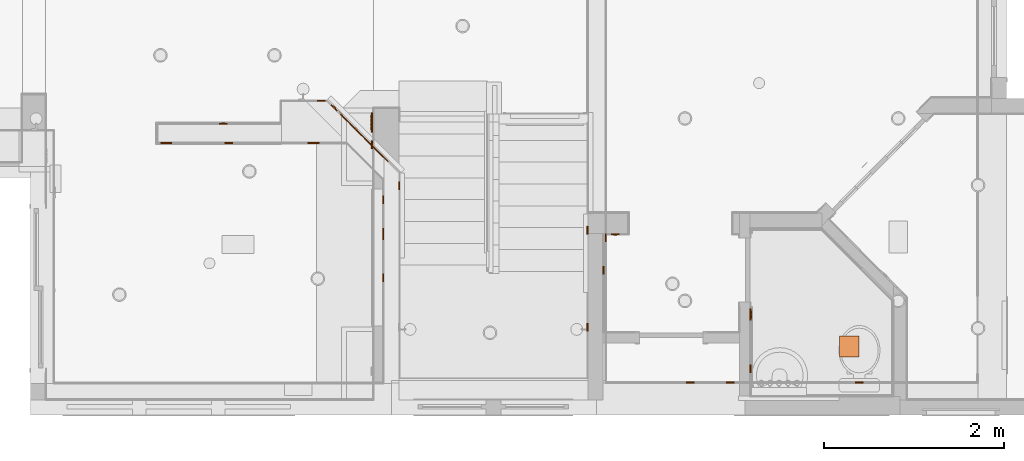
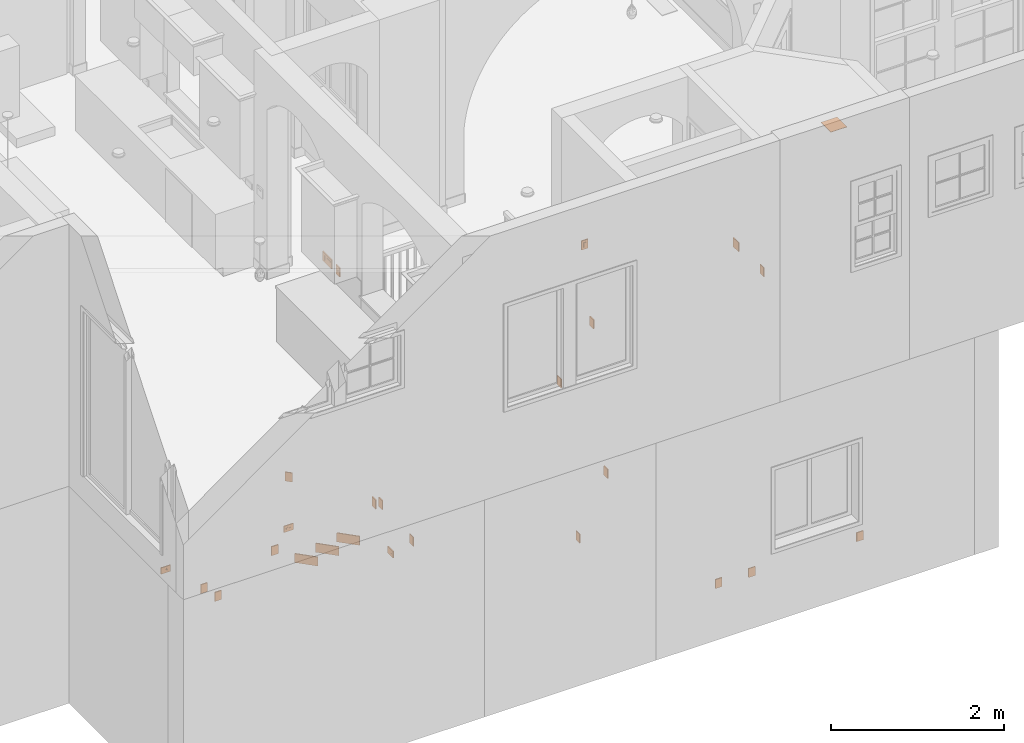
# One storey, part 64 of 81: 26 proxies.
"""IFC2X3 building model written with IfcOpenShell, lengths in feet."""

from ifc_helpers import new_model, entity, si_unit, converted_unit, derived_unit, direction, frame, frame_2d, origin, origin_2d_with_axis, place, context, subcontext, project, spatial, polyline, circle_curve, parameter, trimmed, segment, composite_curve, rectangle, outline, extrude, source, transform, mapped, material, type_object, type_shapes, element, save


model = new_model("IFC2X3")

# Units and contexts
model_context = context("Model", 3, precision=0.0001, world=origin(), true_north=direction((6.12303176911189e-17, 1.0)))
body_context = subcontext(model_context, "Body", "Model", "MODEL_VIEW")
ifc_project = project(units=[converted_unit("LENGTHUNIT", "FOOT", entity("IfcRatioMeasure", 0.3048), si_unit("LENGTHUNIT", "METRE"), dimensions=[1, 0, 0, 0, 0, 0, 0]), converted_unit("AREAUNIT", "SQUARE FOOT", entity("IfcRatioMeasure", 0.09290304), si_unit("AREAUNIT", "SQUARE_METRE"), dimensions=[2, 0, 0, 0, 0, 0, 0]), converted_unit("VOLUMEUNIT", "CUBIC FOOT", entity("IfcRatioMeasure", 0.028316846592), si_unit("VOLUMEUNIT", "CUBIC_METRE"), dimensions=[3, 0, 0, 0, 0, 0, 0]), converted_unit("PLANEANGLEUNIT", "DEGREE", entity("IfcRatioMeasure", 0.0174532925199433), si_unit("PLANEANGLEUNIT", "RADIAN"), dimensions=[0, 0, 0, 0, 0, 0, 0]), si_unit("MASSUNIT", "GRAM", prefix="KILO"), derived_unit("MASSDENSITYUNIT", [(si_unit("MASSUNIT", "GRAM", prefix="KILO"), 1), (si_unit("LENGTHUNIT", "METRE"), -3)]), derived_unit("MOMENTOFINERTIAUNIT", [(si_unit("LENGTHUNIT", "METRE"), 4)]), si_unit("TIMEUNIT", "SECOND"), si_unit("FREQUENCYUNIT", "HERTZ"), si_unit("THERMODYNAMICTEMPERATUREUNIT", "DEGREE_CELSIUS"), derived_unit("THERMALTRANSMITTANCEUNIT", [(si_unit("MASSUNIT", "GRAM", prefix="KILO"), 1), (si_unit("THERMODYNAMICTEMPERATUREUNIT", "KELVIN"), -1), (si_unit("TIMEUNIT", "SECOND"), -3)]), derived_unit("VOLUMETRICFLOWRATEUNIT", [(si_unit("LENGTHUNIT", "METRE"), 3), (si_unit("TIMEUNIT", "SECOND"), -1)]), si_unit("ELECTRICCURRENTUNIT", "AMPERE"), si_unit("ELECTRICVOLTAGEUNIT", "VOLT"), si_unit("POWERUNIT", "WATT"), si_unit("FORCEUNIT", "NEWTON"), si_unit("ILLUMINANCEUNIT", "LUX"), si_unit("LUMINOUSFLUXUNIT", "LUMEN"), si_unit("LUMINOUSINTENSITYUNIT", "CANDELA"), derived_unit("USERDEFINED", [(si_unit("MASSUNIT", "GRAM", prefix="KILO"), -1), (si_unit("LENGTHUNIT", "METRE"), -2), (si_unit("TIMEUNIT", "SECOND"), 3), (si_unit("LUMINOUSFLUXUNIT", "LUMEN"), 1)]), derived_unit("LINEARVELOCITYUNIT", [(si_unit("LENGTHUNIT", "METRE"), 1), (si_unit("TIMEUNIT", "SECOND"), -1)]), si_unit("PRESSUREUNIT", "PASCAL"), derived_unit("USERDEFINED", [(si_unit("LENGTHUNIT", "METRE"), -2), (si_unit("MASSUNIT", "GRAM", prefix="KILO"), 1), (si_unit("TIMEUNIT", "SECOND"), -2)]), derived_unit("LINEARFORCEUNIT", [(si_unit("MASSUNIT", "GRAM", prefix="KILO"), 1), (si_unit("LENGTHUNIT", "METRE"), 1), (si_unit("TIMEUNIT", "SECOND"), -2), (si_unit("LENGTHUNIT", "METRE"), -1)]), derived_unit("PLANARFORCEUNIT", [(si_unit("MASSUNIT", "GRAM", prefix="KILO"), 1), (si_unit("LENGTHUNIT", "METRE"), 1), (si_unit("TIMEUNIT", "SECOND"), -2), (si_unit("LENGTHUNIT", "METRE"), -2)])], contexts=[model_context])

# Site, building, storey
site_placement = place(None, origin())
site = spatial("IfcSite", under=ifc_project, at=site_placement, Name="Default", CompositionType="ELEMENT")
building_placement = place(site_placement, origin())
building = spatial("IfcBuilding", under=site, at=building_placement, CompositionType="ELEMENT")
storey_placement = place(building_placement, origin())
storey = spatial("IfcBuildingStorey", under=building, at=storey_placement, Name="First floor", CompositionType="ELEMENT", Elevation=0.0)

# Proxies
ifc_material = material(Name="Default New Material")
building_element_proxy_type_1 = type_object("IfcBuildingElementProxyType", Name="Switch 4:Switch 4", PredefinedType="NOTDEFINED", material=ifc_material)
shared_shape_1 = source(origin(), body_context, "Body", "SweptSolid", [
    extrude(outline(composite_curve([segment(polyline([(-0.0309162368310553, -0.0465871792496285), (0.0309162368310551, -0.0465871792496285)]), True, "CONTINUOUS"), segment(trimmed(circle_curve(frame_2d((-0.000264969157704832, 0.0), x_axis=(-1.0, 0.0)), 0.056059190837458), [parameter(123.794740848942)], [parameter(236.205259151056)], True, "PARAMETER"), True, "CONTINUOUS"), segment(polyline([(0.0309162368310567, 0.0465871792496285), (-0.0309162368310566, 0.0465871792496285)]), True, "CONTINUOUS"), segment(trimmed(circle_curve(frame_2d((0.000264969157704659, 0.0), x_axis=(1.0, 0.0)), 0.056059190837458), [parameter(123.794740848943)], [parameter(236.205259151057)], True, "PARAMETER"), True, "CONTINUOUS")], self_intersect=False), holes=[polyline([(0.0141623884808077, 0.0279286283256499), (0.0261732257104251, 0.0279286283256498), (0.026173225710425, -0.00693584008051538), (0.0141623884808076, -0.00693584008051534), (0.0141623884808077, 0.0279286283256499)]), polyline([(-0.0152702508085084, 0.0250466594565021), (-0.0152702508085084, -0.00448340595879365), (-0.0278178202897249, -0.00448340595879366), (-0.0278178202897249, 0.0250466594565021), (-0.0152702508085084, 0.0250466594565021)]), composite_curve([segment(polyline([(-0.0120315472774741, -0.041319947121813), (-0.0120315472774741, -0.0300186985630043)]), True, "CONTINUOUS"), segment(trimmed(circle_curve(frame_2d((-0.000284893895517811, -0.0300186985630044), x_axis=(-1.0, 0.0)), 0.0117466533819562), [parameter(180.0)], [parameter(0.0)], True, "PARAMETER"), False, "CONTINUOUS"), segment(polyline([(0.0114617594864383, -0.0300186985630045), (0.0114617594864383, -0.0413199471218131)]), True, "CONTINUOUS"), segment(polyline([(0.0114617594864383, -0.0413199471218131), (-0.0120315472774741, -0.041319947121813)]), True, "CONTINUOUS")], self_intersect=False)]), frame((-0.0114927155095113, 0.0416666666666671, 0.27060332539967), z_axis=(0.0, 1.0, 0.0), x_axis=(-1.0, 0.0, 0.0)), (0.0, 0.0, 1.0), 0.00420900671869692),
    extrude(outline(composite_curve([segment(polyline([(-0.0307631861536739, -0.0463565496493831), (0.0307631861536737, -0.0463565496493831)]), True, "CONTINUOUS"), segment(trimmed(circle_curve(frame_2d((-0.000263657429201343, 0.0), x_axis=(-1.0, 0.0)), 0.0557816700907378), [parameter(123.794740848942)], [parameter(236.205259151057)], True, "PARAMETER"), True, "CONTINUOUS"), segment(polyline([(0.030763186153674, 0.0463565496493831), (-0.0307631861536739, 0.0463565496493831)]), True, "CONTINUOUS"), segment(trimmed(circle_curve(frame_2d((0.00026365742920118, 0.0), x_axis=(1.0, 0.0)), 0.0557816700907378), [parameter(123.794740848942)], [parameter(236.205259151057)], True, "PARAMETER"), True, "CONTINUOUS")], self_intersect=False), holes=[polyline([(0.0140922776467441, 0.0247228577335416), (0.026043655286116, 0.0247228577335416), (0.0260436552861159, -0.00472751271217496), (0.014092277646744, -0.00472751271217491), (0.0140922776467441, 0.0247228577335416)]), polyline([(-0.0151946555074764, 0.0249226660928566), (-0.0151946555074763, -0.0044612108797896), (-0.0276801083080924, -0.00446121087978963), (-0.0276801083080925, 0.0249226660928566), (-0.0151946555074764, 0.0249226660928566)]), composite_curve([segment(polyline([(-0.0119719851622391, -0.0411153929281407), (-0.011971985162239, -0.0298700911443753)]), True, "CONTINUOUS"), segment(trimmed(circle_curve(frame_2d((-0.000283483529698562, -0.0298700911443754), x_axis=(-1.0, 0.0)), 0.0116885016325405), [parameter(180.0)], [parameter(0.0)], True, "PARAMETER"), False, "CONTINUOUS"), segment(polyline([(0.0114050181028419, -0.0298700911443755), (0.0114050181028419, -0.0411153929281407)]), True, "CONTINUOUS"), segment(polyline([(0.0114050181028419, -0.0411153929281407), (-0.0119719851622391, -0.0411153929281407)]), True, "CONTINUOUS")], self_intersect=False)]), frame((-0.0114927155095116, 0.0416666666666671, 0.145832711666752), z_axis=(0.0, 1.0, 0.0), x_axis=(-1.0, 0.0, 0.0)), (0.0, 0.0, 1.0), 0.00420900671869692),
    extrude(rectangle(XDim=0.0416666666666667, YDim=0.291666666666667, at=frame_2d((0.0, 1.38777878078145e-17), x_axis=(1.0, 0.0))), frame((-0.0114927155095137, 0.0208333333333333, 0.0), z_axis=(0.0, 0.0, 1.0), x_axis=(0.0, -1.0, 0.0)), (0.0, 0.0, 1.0), 0.416666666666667),
])
type_shapes(building_element_proxy_type_1, [shared_shape_1])
proxy_1_placement = place(storey_placement, frame((24.1156593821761, 1.16666666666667, 0.958335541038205)))
element("IfcBuildingElementProxy", 1, at=proxy_1_placement, inside=storey, type_object=building_element_proxy_type_1, material=ifc_material, Name="Switch 4:Switch 4", ObjectType="Switch 4:Switch 4", context=body_context, shape_type="MappedRepresentation", body=[
    mapped(shared_shape_1, transform((0.0, 0.0, 0.0), scale=1.0)),
])
proxy_2_placement = place(storey_placement, frame((21.0, 6.46767395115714, 0.958335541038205), z_axis=(0.0, 0.0, 1.0), x_axis=(0.0, -1.0, 0.0)))
element("IfcBuildingElementProxy", 2, at=proxy_2_placement, inside=storey, type_object=building_element_proxy_type_1, material=ifc_material, Name="Switch 4:Switch 4", ObjectType="Switch 4:Switch 4", context=body_context, shape_type="MappedRepresentation", body=[
    mapped(shared_shape_1, transform((0.0, 0.0, 0.0), scale=1.0)),
])
for number, where, name in (
    (3, (7.05790459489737, 10.6250577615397, 0.958335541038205), "Switch 4:Switch 4"),
    (4, (10.6365124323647, 11.4583210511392, 0.958333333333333), "Switch 4:Switch 4"),
):
    element("IfcBuildingElementProxy", number, at=place(storey_placement, frame(where)), inside=storey, type_object=building_element_proxy_type_1, material=ifc_material, Name=name, ObjectType="Switch 4:Switch 4", context=body_context, shape_type="MappedRepresentation", body=[
        mapped(shared_shape_1, transform((0.0, 0.0, 0.0), scale=1.0)),
    ])
for number, where, z_axis, x_axis, name in (
    (5, (20.9166666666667, 5.28017395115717, 11.625), (0.0, 0.0, 1.0), (0.0, -1.0, 0.0), "Switch 4:Switch 4"),
    (6, (26.2916666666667, 1.67600728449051, 14.3333355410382), (0.0, 0.0, 1.0), (0.0, -1.0, 0.0), "Switch 4:Switch 4"),
):
    element("IfcBuildingElementProxy", number, at=place(storey_placement, frame(where, z_axis=z_axis, x_axis=x_axis)), inside=storey, type_object=building_element_proxy_type_1, material=ifc_material, Name=name, ObjectType="Switch 4:Switch 4", context=body_context, shape_type="MappedRepresentation", body=[
        mapped(shared_shape_1, transform((0.0, 0.0, 0.0), scale=1.0)),
    ])
building_element_proxy_type_2 = type_object("IfcBuildingElementProxyType", Name="Switch 1:Switch 1", PredefinedType="NOTDEFINED", material=ifc_material)
shared_shape_2 = source(origin(), body_context, "Body", "SweptSolid", [
    extrude(rectangle(XDim=0.0416666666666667, YDim=0.291666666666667, at=frame_2d((1.73472347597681e-18, -1.38777878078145e-17), x_axis=(1.0, 0.0))), frame((0.0149704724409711, 0.0208333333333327, 0.0), z_axis=(0.0, 0.0, 1.0), x_axis=(0.0, 1.0, 0.0)), (0.0, 0.0, 1.0), 0.416666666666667),
])
type_shapes(building_element_proxy_type_2, [shared_shape_2])
for number, where, name in (
    (7, (30.2766961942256, 1.16666666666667, 0.958333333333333), "Switch 1:Switch 1"),
    (8, (25.547529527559, 1.16666666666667, 0.958333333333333), "Switch 1:Switch 1"),
):
    element("IfcBuildingElementProxy", number, at=place(storey_placement, frame(where)), inside=storey, type_object=building_element_proxy_type_2, material=ifc_material, Name=name, ObjectType="Switch 1:Switch 1", context=body_context, shape_type="MappedRepresentation", body=[
        mapped(shared_shape_2, transform((0.0, 0.0, 0.0), scale=1.0)),
    ])
for number, where, z_axis, x_axis, name in (
    (9, (7.26977145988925, 9.95839109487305, 0.958333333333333), (0.0, 0.0, 1.0), (-1.0, 0.0, 0.0), "Switch 1:Switch 1"),
    (10, (12.9166655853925, 7.84399826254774, 4.54166666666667), (0.0, 0.0, 1.0), (0.0, 1.0, 0.0), "Switch 1:Switch 1"),
    (11, (12.9166655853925, 5.00586286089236, 4.54166666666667), (0.0, 0.0, 1.0), (0.0, 1.0, 0.0), "Switch 1:Switch 1"),
    (12, (13.4583322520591, 8.3899715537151, 4.0), (0.0, 0.0, 1.0), (0.0, -1.0, 0.0), "Switch 1:Switch 1"),
    (13, (20.375, 3.19336286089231, 6.16666666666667), (0.0, 0.0, 1.0), (0.0, 1.0, 0.0), "Switch 1:Switch 1"),
    (14, (20.375, 6.73502952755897, 8.20833333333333), (0.0, 0.0, 1.0), (0.0, 1.0, 0.0), "Switch 1:Switch 1"),
):
    element("IfcBuildingElementProxy", number, at=place(storey_placement, frame(where, z_axis=z_axis, x_axis=x_axis)), inside=storey, type_object=building_element_proxy_type_2, material=ifc_material, Name=name, ObjectType="Switch 1:Switch 1", context=body_context, shape_type="MappedRepresentation", body=[
        mapped(shared_shape_2, transform((0.0, 0.0, 0.0), scale=1.0)),
    ])
building_element_proxy_type_3 = type_object("IfcBuildingElementProxyType", Name="Switch 22:Switch 22", PredefinedType="NOTDEFINED", material=ifc_material)
shared_shape_3 = source(origin(), body_context, "Body", "SweptSolid", [
    extrude(outline(polyline([(-0.0259922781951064, -0.0993451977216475), (-0.00568037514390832, -0.0993451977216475), (-0.00432436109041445, -0.021559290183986), (0.021153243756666, 0.109511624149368), (0.0148437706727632, 0.110738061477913), (-0.0259922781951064, -0.0993451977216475)])), frame((0.216904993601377, 0.0482254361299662, 0.203805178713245), z_axis=(1.0, 0.0, 0.0), x_axis=(0.0, 0.981627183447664, 0.190808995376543)), (0.0, 0.0, 1.0), 0.104166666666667),
    extrude(outline(polyline([(-0.0259922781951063, -0.0993451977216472), (-0.00568037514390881, -0.0993451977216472), (-0.00432436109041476, -0.0215592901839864), (0.0211532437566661, 0.109511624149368), (0.0148437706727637, 0.110738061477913), (-0.0259922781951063, -0.0993451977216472)])), frame((0.0752383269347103, 0.0482254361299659, 0.203805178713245), z_axis=(1.0, 0.0, 0.0), x_axis=(0.0, 0.981627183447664, 0.190808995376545)), (0.0, 0.0, 1.0), 0.104166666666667),
    extrude(outline(polyline([(-0.102069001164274, -0.00649102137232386), (0.111946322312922, -0.00649102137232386), (0.111946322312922, -6.34558053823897e-05), (-0.0235644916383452, -6.34558053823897e-05), (-0.0982591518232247, 0.0131089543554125), (-0.102069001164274, -0.00649102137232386)])), frame((-0.0664283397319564, 0.0481576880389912, 0.2120154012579), z_axis=(1.0, 0.0, 0.0), x_axis=(0.0, 0.0, -1.0)), (0.0, 0.0, 1.0), 0.104166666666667),
    extrude(outline(polyline([(-0.102069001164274, -0.00649102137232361), (0.111946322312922, -0.00649102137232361), (0.111946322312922, -6.34558053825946e-05), (-0.0235644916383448, -6.34558053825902e-05), (-0.0982591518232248, 0.0131089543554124), (-0.102069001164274, -0.00649102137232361)])), frame((-0.208095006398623, 0.048157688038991, 0.2120154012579), z_axis=(1.0, 0.0, 0.0), x_axis=(0.0, 0.0, -1.0)), (0.0, 0.0, 1.0), 0.104166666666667),
    extrude(rectangle(XDim=0.0416666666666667, YDim=0.708333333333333, at=origin_2d_with_axis()), frame((0.0564883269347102, 0.0208333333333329, 0.0), z_axis=(0.0, 0.0, 1.0), x_axis=(0.0, -1.0, 0.0)), (0.0, 0.0, 1.0), 0.416666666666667),
])
type_shapes(building_element_proxy_type_3, [shared_shape_3])
proxy_3_placement = place(storey_placement, frame((12.4999999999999, 10.6306665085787, 14.2083333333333), z_axis=(0.0, 0.0, 1.0), x_axis=(0.0, 1.0, 0.0)))
element("IfcBuildingElementProxy", 15, at=proxy_3_placement, inside=storey, type_object=building_element_proxy_type_3, material=ifc_material, Name="Switch 22:Switch 22", ObjectType="Switch 22:Switch 22", context=body_context, shape_type="MappedRepresentation", body=[
    mapped(shared_shape_3, transform((0.0, 0.0, 0.0), scale=1.0)),
])
building_element_proxy_type_4 = type_object("IfcBuildingElementProxyType", Name="Switch 15:Switch 15", PredefinedType="NOTDEFINED", material=ifc_material)
shared_shape_4 = source(origin(), body_context, "Body", "SweptSolid", [
    extrude(outline(composite_curve([segment(polyline([(-0.0309162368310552, -0.0465871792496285), (0.030916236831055, -0.0465871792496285)]), True, "CONTINUOUS"), segment(trimmed(circle_curve(frame_2d((-0.000264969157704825, 0.0), x_axis=(-1.0, 0.0)), 0.056059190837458), [parameter(123.794740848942)], [parameter(236.205259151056)], True, "PARAMETER"), True, "CONTINUOUS"), segment(polyline([(0.0309162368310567, 0.0465871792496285), (-0.0309162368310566, 0.0465871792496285)]), True, "CONTINUOUS"), segment(trimmed(circle_curve(frame_2d((0.000264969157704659, 0.0), x_axis=(1.0, 0.0)), 0.056059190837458), [parameter(123.794740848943)], [parameter(236.205259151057)], True, "PARAMETER"), True, "CONTINUOUS")], self_intersect=False), holes=[polyline([(0.0141623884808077, 0.0279286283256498), (0.026173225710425, 0.0279286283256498), (0.0261732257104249, -0.00693584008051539), (0.0141623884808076, -0.00693584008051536), (0.0141623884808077, 0.0279286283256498)]), polyline([(-0.0152702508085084, 0.0250466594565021), (-0.0152702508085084, -0.00448340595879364), (-0.0278178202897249, -0.00448340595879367), (-0.027817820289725, 0.025046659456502), (-0.0152702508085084, 0.0250466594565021)]), composite_curve([segment(polyline([(-0.0120315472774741, -0.041319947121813), (-0.0120315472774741, -0.0300186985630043)]), True, "CONTINUOUS"), segment(trimmed(circle_curve(frame_2d((-0.000284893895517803, -0.0300186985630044), x_axis=(-1.0, 0.0)), 0.0117466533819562), [parameter(180.0)], [parameter(0.0)], True, "PARAMETER"), False, "CONTINUOUS"), segment(polyline([(0.0114617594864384, -0.0300186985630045), (0.0114617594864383, -0.0413199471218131)]), True, "CONTINUOUS"), segment(polyline([(0.0114617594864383, -0.0413199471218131), (-0.0120315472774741, -0.041319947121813)]), True, "CONTINUOUS")], self_intersect=False)]), frame((-0.0667122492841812, 0.0416666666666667, 0.14583333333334), z_axis=(0.0, 1.0, 0.0), x_axis=(0.0, 0.0, -1.0)), (0.0, 0.0, 1.0), 0.00420900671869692),
    extrude(outline(composite_curve([segment(polyline([(-0.0307631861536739, -0.0463565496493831), (0.0307631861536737, -0.0463565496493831)]), True, "CONTINUOUS"), segment(trimmed(circle_curve(frame_2d((-0.000263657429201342, 0.0), x_axis=(-1.0, 0.0)), 0.0557816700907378), [parameter(123.794740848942)], [parameter(236.205259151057)], True, "PARAMETER"), True, "CONTINUOUS"), segment(polyline([(0.030763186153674, 0.0463565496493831), (-0.0307631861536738, 0.0463565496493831)]), True, "CONTINUOUS"), segment(trimmed(circle_curve(frame_2d((0.000263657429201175, 0.0), x_axis=(1.0, 0.0)), 0.0557816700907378), [parameter(123.794740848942)], [parameter(236.205259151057)], True, "PARAMETER"), True, "CONTINUOUS")], self_intersect=False), holes=[polyline([(0.0140922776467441, 0.0247228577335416), (0.026043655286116, 0.0247228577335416), (0.0260436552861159, -0.00472751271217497), (0.014092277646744, -0.00472751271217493), (0.0140922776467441, 0.0247228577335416)]), polyline([(-0.0151946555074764, 0.0249226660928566), (-0.0151946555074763, -0.00446121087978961), (-0.0276801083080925, -0.00446121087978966), (-0.0276801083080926, 0.0249226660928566), (-0.0151946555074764, 0.0249226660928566)]), composite_curve([segment(polyline([(-0.0119719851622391, -0.0411153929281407), (-0.0119719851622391, -0.0298700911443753)]), True, "CONTINUOUS"), segment(trimmed(circle_curve(frame_2d((-0.000283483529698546, -0.0298700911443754), x_axis=(-1.0, 0.0)), 0.0116885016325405), [parameter(180.0)], [parameter(1.01777749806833e-13)], True, "PARAMETER"), False, "CONTINUOUS"), segment(polyline([(0.011405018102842, -0.0298700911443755), (0.0114050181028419, -0.0411153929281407)]), True, "CONTINUOUS"), segment(polyline([(0.0114050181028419, -0.0411153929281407), (-0.0119719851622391, -0.0411153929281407)]), True, "CONTINUOUS")], self_intersect=False)]), frame((0.058058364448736, 0.0416666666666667, 0.145833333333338), z_axis=(0.0, 1.0, 0.0), x_axis=(0.0, 0.0, -1.0)), (0.0, 0.0, 1.0), 0.00420900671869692),
    extrude(rectangle(XDim=0.0416666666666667, YDim=0.416666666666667, at=origin_2d_with_axis()), frame((-0.00444225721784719, 0.0208333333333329, 0.0), z_axis=(0.0, 0.0, 1.0), x_axis=(0.0, -1.0, 0.0)), (0.0, 0.0, 1.0), 0.291666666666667),
])
type_shapes(building_element_proxy_type_4, [shared_shape_4])
for number, where, z_axis, x_axis, name in (
    (16, (4.95869206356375, 9.95833333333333, 3.04166666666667), (0.0, 0.0, 1.0), (-1.0, 0.0, 0.0), "Switch 15:Switch 15"),
    (17, (10.33361156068, 9.95831872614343, 3.08333333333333), (0.0, 0.0, 1.0), (-1.0, 0.0, 0.0), "Switch 15:Switch 15"),
    (18, (12.9166655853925, 6.61341099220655, 3.08333333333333), (0.0, 0.0, 1.0), (0.0, 1.0, 0.0), "Switch 15:Switch 15"),
):
    element("IfcBuildingElementProxy", number, at=place(storey_placement, frame(where, z_axis=z_axis, x_axis=x_axis)), inside=storey, type_object=building_element_proxy_type_4, material=ifc_material, Name=name, ObjectType="Switch 15:Switch 15", context=body_context, shape_type="MappedRepresentation", body=[
        mapped(shared_shape_4, transform((0.0, 0.0, 0.0), scale=1.0)),
    ])
building_element_proxy_type_5 = type_object("IfcBuildingElementProxyType", Name="Switch 6:Switch 6", PredefinedType="NOTDEFINED", material=ifc_material)
shared_shape_5 = source(origin(), body_context, "Body", "SweptSolid", [
    extrude(outline(polyline([(-0.0254447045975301, -0.101047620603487), (-0.00704945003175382, -0.101047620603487), (-0.00576030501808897, -0.0270975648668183), (0.021685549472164, 0.114099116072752), (0.0165689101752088, 0.11509369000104), (-0.0254447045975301, -0.101047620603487)])), frame((0.0159752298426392, 0.0473630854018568, 0.202286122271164), z_axis=(1.0, 0.0, 0.0), x_axis=(0.0, 0.981627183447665, 0.190808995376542)), (0.0, 0.0, 1.0), 0.104166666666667),
    extrude(outline(polyline([(-0.105609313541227, -0.00595439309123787), (0.114577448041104, -0.00595439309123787), (0.114577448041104, -0.000741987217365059), (-0.0216969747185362, -0.00074198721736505), (-0.101848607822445, 0.0133927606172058), (-0.105609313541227, -0.00595439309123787)])), frame((-0.129858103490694, 0.047621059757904, 0.211324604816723), z_axis=(1.0, 0.0, 0.0), x_axis=(0.0, 0.0, -1.0)), (0.0, 0.0, 1.0), 0.104166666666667),
    extrude(rectangle(XDim=0.0416666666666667, YDim=0.416666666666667, at=frame_2d((0.0, -1.38777878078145e-17), x_axis=(1.0, 0.0))), frame((-0.00485810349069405, 0.0208333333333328, 0.0), z_axis=(0.0, 0.0, 1.0), x_axis=(0.0, -1.0, 0.0)), (0.0, 0.0, 1.0), 0.416666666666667),
])
type_shapes(building_element_proxy_type_5, [shared_shape_5])
proxy_4_placement = place(storey_placement, frame((26.2916666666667, 3.661808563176, 14.3333355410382), z_axis=(0.0, 0.0, 1.0), x_axis=(0.0, -1.0, 0.0)))
element("IfcBuildingElementProxy", 19, at=proxy_4_placement, inside=storey, type_object=building_element_proxy_type_5, material=ifc_material, Name="Switch 6:Switch 6", ObjectType="Switch 6:Switch 6", context=body_context, shape_type="MappedRepresentation", body=[
    mapped(shared_shape_5, transform((0.0, 0.0, 0.0), scale=1.0)),
])
building_element_proxy_type_6 = type_object("IfcBuildingElementProxyType", Name="Switch 3:Switch 3", PredefinedType="NOTDEFINED", material=ifc_material)
shared_shape_6 = source(origin(), body_context, "Body", "SweptSolid", [
    extrude(outline(polyline([(-0.104054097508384, -0.005864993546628), (0.112106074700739, -0.005864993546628), (0.112106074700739, -0.000652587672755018), (-0.0212705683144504, -0.000652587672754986), (-0.0988874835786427, 0.0130351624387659), (-0.104054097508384, -0.005864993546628)])), frame((-0.0648037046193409, 0.0475316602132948, 0.212359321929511), z_axis=(1.0, 0.0, 0.0), x_axis=(0.0, 0.0, -1.0)), (0.0, 0.0, 1.0), 0.104166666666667),
    extrude(rectangle(XDim=0.0416666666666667, YDim=0.291666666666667, at=frame_2d((0.0, -1.38777878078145e-17), x_axis=(1.0, 0.0))), frame((-0.012720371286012, 0.020833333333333, 0.0), z_axis=(0.0, 0.0, 1.0), x_axis=(0.0, -1.0, 0.0)), (0.0, 0.0, 1.0), 0.416666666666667),
])
type_shapes(building_element_proxy_type_6, [shared_shape_6])
for number, where, z_axis, x_axis, name in (
    (20, (11.0927813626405, 11.1988853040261, 4.33333333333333), (0.0, 0.0, 1.0), (0.707106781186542, -0.707106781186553, 0.0), "Switch 3:Switch 3"),
    (21, (21.362279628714, 6.62500000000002, 14.2916666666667), (0.0, 0.0, 1.0), (-1.0, 0.0, 0.0), "Switch 3:Switch 3"),
):
    element("IfcBuildingElementProxy", number, at=place(storey_placement, frame(where, z_axis=z_axis, x_axis=x_axis)), inside=storey, type_object=building_element_proxy_type_6, material=ifc_material, Name=name, ObjectType="Switch 3:Switch 3", context=body_context, shape_type="MappedRepresentation", body=[
        mapped(shared_shape_6, transform((0.0, 0.0, 0.0), scale=1.0)),
    ])
building_element_proxy_type_7 = type_object("IfcBuildingElementProxyType", Name="Generic Models 8:Generic Models 8", PredefinedType="NOTDEFINED", material=ifc_material)
shared_shape_7 = source(origin(), body_context, "Body", "SweptSolid", [
    extrude(rectangle(XDim=0.0416666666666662, YDim=0.908703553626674, at=frame_2d((-1.2490009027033e-15, 0.0), x_axis=(1.0, 0.0))), frame((11.5839696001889, 10.7371598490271, 0.627604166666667), z_axis=(0.0, 0.0, 1.0), x_axis=(-0.707106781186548, -0.707106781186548, 0.0)), (0.0, 0.0, 1.0), 0.416666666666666),
])
type_shapes(building_element_proxy_type_7, [shared_shape_7])
proxy_5_placement = place(storey_placement, origin())
element("IfcBuildingElementProxy", 22, at=proxy_5_placement, inside=storey, type_object=building_element_proxy_type_7, material=ifc_material, Name="Generic Models 8:Generic Models 8", ObjectType="Generic Models 8:Generic Models 8", context=body_context, shape_type="MappedRepresentation", body=[
    mapped(shared_shape_7, transform((0.0, 0.0, 0.0), scale=1.0)),
])
building_element_proxy_type_8 = type_object("IfcBuildingElementProxyType", Name="Generic Models 9:Generic Models 9", PredefinedType="NOTDEFINED", material=ifc_material)
shared_shape_8 = source(origin(), body_context, "Body", "SweptSolid", [
    extrude(rectangle(XDim=0.0416666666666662, YDim=0.908703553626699, at=frame_2d((-1.26287869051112e-15, 0.0), x_axis=(1.0, 0.0))), frame((12.1675944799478, 10.1535349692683, 1.25520833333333), z_axis=(0.0, 0.0, 1.0), x_axis=(-0.707106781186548, -0.707106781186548, 0.0)), (0.0, 0.0, 1.0), 0.416666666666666),
])
type_shapes(building_element_proxy_type_8, [shared_shape_8])
proxy_6_placement = place(storey_placement, origin())
element("IfcBuildingElementProxy", 23, at=proxy_6_placement, inside=storey, type_object=building_element_proxy_type_8, material=ifc_material, Name="Generic Models 9:Generic Models 9", ObjectType="Generic Models 9:Generic Models 9", context=body_context, shape_type="MappedRepresentation", body=[
    mapped(shared_shape_8, transform((0.0, 0.0, 0.0), scale=1.0)),
])
building_element_proxy_type_9 = type_object("IfcBuildingElementProxyType", Name="Generic Models 10:Generic Models 10", PredefinedType="NOTDEFINED", material=ifc_material)
shared_shape_9 = source(origin(), body_context, "Body", "SweptSolid", [
    extrude(rectangle(XDim=0.0416666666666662, YDim=0.894398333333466, at=frame_2d((-1.88737914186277e-15, 6.38378239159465e-16), x_axis=(1.0, 0.0))), frame((12.7461617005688, 9.57496774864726, 1.8828125), z_axis=(0.0, 0.0, 1.0), x_axis=(-0.707106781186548, -0.707106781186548, 0.0)), (0.0, 0.0, 1.0), 0.416666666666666),
])
type_shapes(building_element_proxy_type_9, [shared_shape_9])
proxy_7_placement = place(storey_placement, origin())
element("IfcBuildingElementProxy", 24, at=proxy_7_placement, inside=storey, type_object=building_element_proxy_type_9, material=ifc_material, Name="Generic Models 10:Generic Models 10", ObjectType="Generic Models 10:Generic Models 10", context=body_context, shape_type="MappedRepresentation", body=[
    mapped(shared_shape_9, transform((0.0, 0.0, 0.0), scale=1.0)),
])
building_element_proxy_type_10 = type_object("IfcBuildingElementProxyType", Name="Generic_02:Generic_02", PredefinedType="NOTDEFINED", material=ifc_material)
shared_shape_10 = source(origin(), body_context, "Body", "SweptSolid", [
    extrude(rectangle(XDim=0.75, YDim=0.708333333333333, at=frame_2d((0.0, 5.55111512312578e-17), x_axis=(1.0, 0.0))), frame((0.354166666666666, -0.375000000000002, -0.0208333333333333), z_axis=(0.0, 0.0, 1.0), x_axis=(0.0, 1.0, 0.0)), (0.0, 0.0, 1.0), 0.0208333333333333),
])
type_shapes(building_element_proxy_type_10, [shared_shape_10])
proxy_8_placement = place(storey_placement, frame((29.5598958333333, 2.87500000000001, 19.5416666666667)))
element("IfcBuildingElementProxy", 25, at=proxy_8_placement, inside=storey, type_object=building_element_proxy_type_10, material=ifc_material, Name="Generic_02:Generic_02", ObjectType="Generic_02:Generic_02", context=body_context, shape_type="MappedRepresentation", body=[
    mapped(shared_shape_10, transform((0.0, 0.0, 0.0), scale=1.0)),
])
building_element_proxy_type_11 = type_object("IfcBuildingElementProxyType", Name="Switch 18:Switch 18", PredefinedType="NOTDEFINED", material=ifc_material)
shared_shape_11 = source(origin(), body_context, "Body", "SweptSolid", [
    extrude(outline(composite_curve([segment(polyline([(-0.0307631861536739, -0.0463565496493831), (0.0307631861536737, -0.0463565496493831)]), True, "CONTINUOUS"), segment(trimmed(circle_curve(frame_2d((-0.000263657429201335, 0.0), x_axis=(-1.0, 0.0)), 0.0557816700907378), [parameter(123.794740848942)], [parameter(236.205259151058)], True, "PARAMETER"), True, "CONTINUOUS"), segment(polyline([(0.030763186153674, 0.0463565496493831), (-0.0307631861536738, 0.0463565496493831)]), True, "CONTINUOUS"), segment(trimmed(circle_curve(frame_2d((0.000263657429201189, 0.0), x_axis=(1.0, 0.0)), 0.0557816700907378), [parameter(123.794740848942)], [parameter(236.205259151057)], True, "PARAMETER"), True, "CONTINUOUS")], self_intersect=False), holes=[polyline([(0.0140922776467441, 0.0247228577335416), (0.026043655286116, 0.0247228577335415), (0.0260436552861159, -0.00472751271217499), (0.014092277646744, -0.00472751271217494), (0.0140922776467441, 0.0247228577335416)]), polyline([(-0.0151946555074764, 0.0249226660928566), (-0.0151946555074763, -0.00446121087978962), (-0.0276801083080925, -0.00446121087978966), (-0.0276801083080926, 0.0249226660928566), (-0.0151946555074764, 0.0249226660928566)]), composite_curve([segment(polyline([(-0.0119719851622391, -0.0411153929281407), (-0.0119719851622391, -0.0298700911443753)]), True, "CONTINUOUS"), segment(trimmed(circle_curve(frame_2d((-0.000283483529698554, -0.0298700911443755), x_axis=(-1.0, 0.0)), 0.0116885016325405), [parameter(180.0)], [parameter(0.0)], True, "PARAMETER"), False, "CONTINUOUS"), segment(polyline([(0.011405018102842, -0.0298700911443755), (0.0114050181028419, -0.0411153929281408)]), True, "CONTINUOUS"), segment(polyline([(0.0114050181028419, -0.0411153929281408), (-0.0119719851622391, -0.0411153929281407)]), True, "CONTINUOUS")], self_intersect=False)]), frame((-0.0114927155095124, 0.0416666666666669, 0.208333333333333), z_axis=(0.0, 1.0, 0.0), x_axis=(-1.0, 0.0, 0.0)), (0.0, 0.0, 1.0), 0.00420900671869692),
    extrude(rectangle(XDim=0.0416666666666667, YDim=0.291666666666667, at=frame_2d((0.0, 1.38777878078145e-17), x_axis=(1.0, 0.0))), frame((-0.0114927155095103, 0.0208333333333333, 0.0), z_axis=(0.0, 0.0, 1.0), x_axis=(0.0, -1.0, 0.0)), (0.0, 0.0, 1.0), 0.416666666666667),
])
type_shapes(building_element_proxy_type_11, [shared_shape_11])
proxy_9_placement = place(storey_placement, frame((12.4999999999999, 9.88614755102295, 14.2083333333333), z_axis=(0.0, 0.0, 1.0), x_axis=(0.0, 1.0, 0.0)))
element("IfcBuildingElementProxy", 26, at=proxy_9_placement, inside=storey, type_object=building_element_proxy_type_11, material=ifc_material, Name="Switch 18:Switch 18", ObjectType="Switch 18:Switch 18", context=body_context, shape_type="MappedRepresentation", body=[
    mapped(shared_shape_11, transform((0.0, 0.0, 0.0), scale=1.0)),
])

save(model, "model.ifc")
